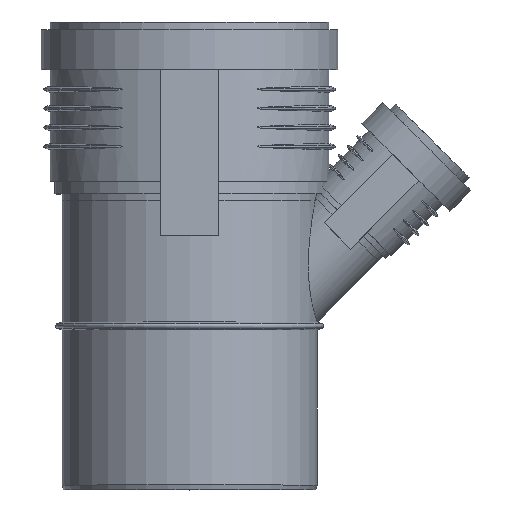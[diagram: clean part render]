
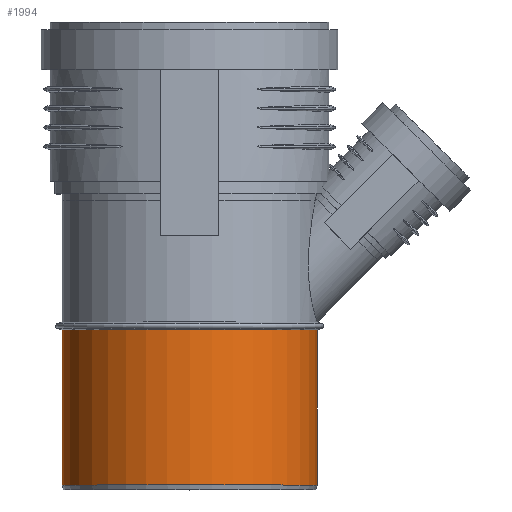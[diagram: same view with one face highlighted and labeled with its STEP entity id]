
A CAD part, top view. The second image highlights one B-rep face of the part: STEP entity #1994.
In plain terms, the highlighted cylindrical face has radius 55.1 mm (diameter 110.2 mm), a full revolution.
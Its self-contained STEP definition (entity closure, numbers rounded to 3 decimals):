
#259=CYLINDRICAL_SURFACE($,#2130,55.1);
#516=FACE_BOUND($,#705,.T.);
#591=FACE_OUTER_BOUND($,#704,.T.);
#704=EDGE_LOOP($,(#1457));
#705=EDGE_LOOP($,(#1458));
#886=CIRCLE($,#2128,55.1);
#888=CIRCLE($,#2131,55.1);
#984=VERTEX_POINT($,#2942);
#986=VERTEX_POINT($,#2947);
#1187=EDGE_CURVE($,#984,#984,#886,.T.);
#1189=EDGE_CURVE($,#986,#986,#888,.T.);
#1457=ORIENTED_EDGE($,*,*,#1189,.T.);
#1458=ORIENTED_EDGE($,*,*,#1187,.F.);
#1994=ADVANCED_FACE($,(#591,#516),#259,.T.);
#2128=AXIS2_PLACEMENT_3D($,#2943,#2363,#2364);
#2130=AXIS2_PLACEMENT_3D($,#2946,#2367,#2368);
#2131=AXIS2_PLACEMENT_3D($,#2948,#2369,#2370);
#2363=DIRECTION('center_axis',(0.,-1.,0.));
#2364=DIRECTION('ref_axis',(1.,0.,0.));
#2367=DIRECTION('center_axis',(0.,1.,0.));
#2368=DIRECTION('ref_axis',(1.,0.,0.));
#2369=DIRECTION('center_axis',(0.,-1.,0.));
#2370=DIRECTION('ref_axis',(1.,0.,0.));
#2942=CARTESIAN_POINT('',(-55.1,2.,0.));
#2943=CARTESIAN_POINT('Origin',(0.,2.,0.));
#2946=CARTESIAN_POINT('Origin',(0.,0.,0.));
#2947=CARTESIAN_POINT('',(-55.1,69.1,0.));
#2948=CARTESIAN_POINT('Origin',(0.,69.1,0.));
